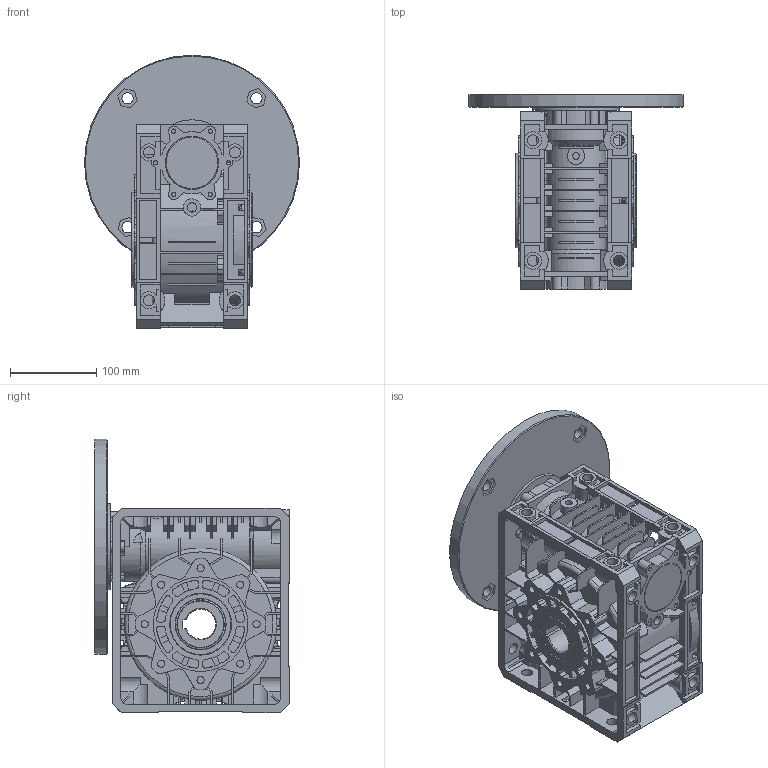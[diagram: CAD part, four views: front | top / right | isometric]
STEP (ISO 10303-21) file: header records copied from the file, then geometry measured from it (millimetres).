
FILE_DESCRIPTION((''),'2;1');
FILE_NAME('C:\Users\m.piscopiello.SITIRIDUTTORI\Desktop\FIGURINI VSF\FIGURINI U-MU 90\MU 90 PAM 100 B5.stp','2016-03-08T09:48:26',('m.piscopiello'),(''),'Autodesk Inventor 2012','Autodesk Inventor 2012','');
FILE_SCHEMA(('CONFIG_CONTROL_DESIGN'));
Length unit declared in the file: millimetre
Products named in the file (1): 3F021151
Bounding box: 250 x 226 x 318 mm (x, y, z)
Volume: 2724033.2 mm3; surface area: 870890.3 mm2
Topology: 2 solids, 33 shells, 2848 faces, 7698 edges, 4913 vertices
Faces by surface type: plane 1327, cylinder 860, torus 375, cone 194, bspline 80, sphere 12
Full cylindrical faces by diameter (mm): 4.917 x12, 6 x12, 6.5 x6, 6.647 x8, 8 x17, 8.376 x16, 9 x8, 11 x2, 12 x8, 13 x26, 20 x5, 40 x2, 55 x4, 56 x1, 58.875 x1, 59 x1, 60.438 x2, 62 x2, 65.4 x1, 68 x2, 68.6 x2, 72 x4, 80 x2, 90 x2, 100 x2, 101.5 x2, 110 x3, 165.4 x1, 168 x2, 178 x1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
Entity records: 92000 total; most frequent: CARTESIAN_POINT 21333, DIRECTION 14816, ORIENTED_EDGE 14662, EDGE_CURVE 7331, AXIS2_PLACEMENT_3D 5607, VERTEX_POINT 4827, VECTOR 3602, LINE 3602
